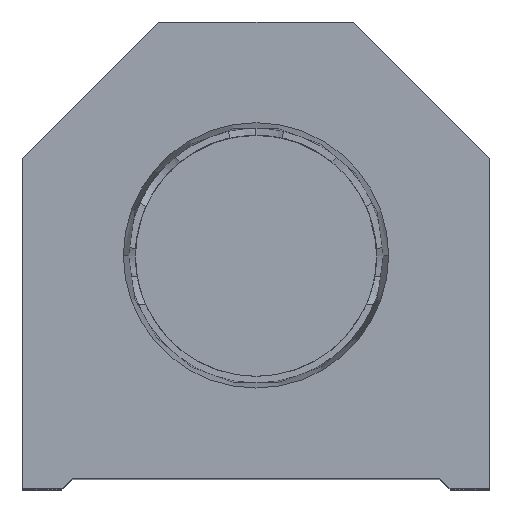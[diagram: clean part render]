
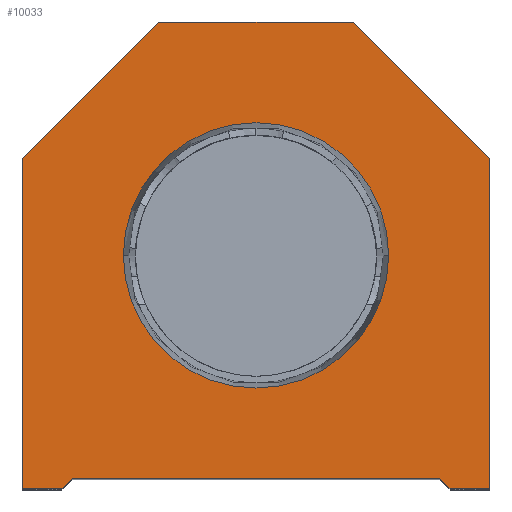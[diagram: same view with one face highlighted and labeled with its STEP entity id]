
A CAD part, top view. The second image highlights one B-rep face of the part: STEP entity #10033.
In plain terms, the highlighted planar face has unit normal (0, 0, 1).
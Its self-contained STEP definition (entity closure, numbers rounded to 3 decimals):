
#531 = CIRCLE ( 'NONE', #18785, 12.647 ) ;
#534 = VERTEX_POINT ( 'NONE', #5834 ) ;
#725 = ORIENTED_EDGE ( 'NONE', *, *, #7011, .T. ) ;
#784 = VERTEX_POINT ( 'NONE', #17681 ) ;
#794 = LINE ( 'NONE', #7763, #10068 ) ;
#921 = EDGE_CURVE ( 'NONE', #784, #14895, #20550, .T. ) ;
#1245 = EDGE_CURVE ( 'NONE', #2391, #534, #6723, .T. ) ;
#1561 = LINE ( 'NONE', #17331, #5244 ) ;
#1649 = VECTOR ( 'NONE', #4594, 1000. ) ;
#2178 = ORIENTED_EDGE ( 'NONE', *, *, #5368, .T. ) ;
#2391 = VERTEX_POINT ( 'NONE', #8529 ) ;
#2733 = ORIENTED_EDGE ( 'NONE', *, *, #15463, .T. ) ;
#3262 = DIRECTION ( 'NONE',  ( 1., 0., 0. ) ) ;
#3576 = CARTESIAN_POINT ( 'NONE',  ( 22.25, 31.5, 0. ) ) ;
#3578 = ORIENTED_EDGE ( 'NONE', *, *, #4099, .F. ) ;
#3602 = VERTEX_POINT ( 'NONE', #8545 ) ;
#3784 = FACE_BOUND ( 'NONE', #4726, .T. ) ;
#3879 = DIRECTION ( 'NONE',  ( 1., 0., 0. ) ) ;
#3960 = ORIENTED_EDGE ( 'NONE', *, *, #17997, .T. ) ;
#4099 = EDGE_CURVE ( 'NONE', #17177, #8280, #531, .T. ) ;
#4169 = VERTEX_POINT ( 'NONE', #3576 ) ;
#4216 = CARTESIAN_POINT ( 'NONE',  ( 12.647, 22.25, 0. ) ) ;
#4276 = VECTOR ( 'NONE', #13326, 1000. ) ;
#4314 = CARTESIAN_POINT ( 'NONE',  ( 18.5, 0., 0. ) ) ;
#4553 = DIRECTION ( 'NONE',  ( 1., 0., 0. ) ) ;
#4594 = DIRECTION ( 'NONE',  ( 0.707, 0.707, 0. ) ) ;
#4726 = EDGE_LOOP ( 'NONE', ( #12673, #3578 ) ) ;
#5095 = VERTEX_POINT ( 'NONE', #16109 ) ;
#5244 = VECTOR ( 'NONE', #21026, 1000. ) ;
#5368 = EDGE_CURVE ( 'NONE', #5095, #784, #8778, .T. ) ;
#5465 = VECTOR ( 'NONE', #21376, 1000. ) ;
#5693 = CARTESIAN_POINT ( 'NONE',  ( 22.25, 31.5, 0. ) ) ;
#5729 = VECTOR ( 'NONE', #21569, 1000. ) ;
#5834 = CARTESIAN_POINT ( 'NONE',  ( 17.5, 1., 0. ) ) ;
#6672 = EDGE_CURVE ( 'NONE', #14895, #2391, #10129, .T. ) ;
#6723 = LINE ( 'NONE', #15033, #4276 ) ;
#6876 = AXIS2_PLACEMENT_3D ( 'NONE', #19420, #10886, #3879 ) ;
#7011 = EDGE_CURVE ( 'NONE', #9888, #5095, #11110, .T. ) ;
#7173 = FACE_OUTER_BOUND ( 'NONE', #8279, .T. ) ;
#7180 = CARTESIAN_POINT ( 'NONE',  ( -22.25, 0., 0. ) ) ;
#7209 = DIRECTION ( 'NONE',  ( 0., 0., 1. ) ) ;
#7351 = CARTESIAN_POINT ( 'NONE',  ( 22.25, 0., 0. ) ) ;
#7763 = CARTESIAN_POINT ( 'NONE',  ( 9.25, 44.5, 0. ) ) ;
#8039 = ORIENTED_EDGE ( 'NONE', *, *, #22582, .T. ) ;
#8063 = LINE ( 'NONE', #16963, #19838 ) ;
#8279 = EDGE_LOOP ( 'NONE', ( #10389, #16745, #10844, #3960, #2733, #17811, #8039, #21887, #725, #2178 ) ) ;
#8280 = VERTEX_POINT ( 'NONE', #4216 ) ;
#8384 = CARTESIAN_POINT ( 'NONE',  ( -17.5, 0., 0. ) ) ;
#8529 = CARTESIAN_POINT ( 'NONE',  ( -17.5, 1., 0. ) ) ;
#8545 = CARTESIAN_POINT ( 'NONE',  ( 9.25, 44.5, 0. ) ) ;
#8778 = LINE ( 'NONE', #7180, #9214 ) ;
#8799 = DIRECTION ( 'NONE',  ( 1., 0., 0. ) ) ;
#8877 = VERTEX_POINT ( 'NONE', #22181 ) ;
#9083 = CARTESIAN_POINT ( 'NONE',  ( -22.25, 31.5, 0. ) ) ;
#9214 = VECTOR ( 'NONE', #10681, 1000. ) ;
#9888 = VERTEX_POINT ( 'NONE', #10317 ) ;
#10033 = ADVANCED_FACE ( 'NONE', ( #3784, #7173 ), #17343, .T. ) ;
#10068 = VECTOR ( 'NONE', #14699, 1000. ) ;
#10129 = LINE ( 'NONE', #15385, #1649 ) ;
#10288 = VERTEX_POINT ( 'NONE', #4314 ) ;
#10317 = CARTESIAN_POINT ( 'NONE',  ( -9.25, 44.5, 0. ) ) ;
#10389 = ORIENTED_EDGE ( 'NONE', *, *, #921, .T. ) ;
#10681 = DIRECTION ( 'NONE',  ( 0., -1., 0. ) ) ;
#10844 = ORIENTED_EDGE ( 'NONE', *, *, #1245, .T. ) ;
#10886 = DIRECTION ( 'NONE',  ( 0., 0., 1. ) ) ;
#11110 = LINE ( 'NONE', #9083, #5729 ) ;
#11350 = CARTESIAN_POINT ( 'NONE',  ( -18.5, 0., 0. ) ) ;
#11443 = EDGE_CURVE ( 'NONE', #8877, #4169, #21230, .T. ) ;
#12451 = CARTESIAN_POINT ( 'NONE',  ( 0., 22.25, 0. ) ) ;
#12480 = DIRECTION ( 'NONE',  ( 0., 1., 0. ) ) ;
#12528 = EDGE_CURVE ( 'NONE', #8280, #17177, #17469, .T. ) ;
#12673 = ORIENTED_EDGE ( 'NONE', *, *, #12528, .F. ) ;
#13009 = VECTOR ( 'NONE', #3262, 1000. ) ;
#13326 = DIRECTION ( 'NONE',  ( 1., 0., 0. ) ) ;
#13664 = EDGE_CURVE ( 'NONE', #3602, #9888, #794, .T. ) ;
#14344 = LINE ( 'NONE', #5693, #5465 ) ;
#14348 = DIRECTION ( 'NONE',  ( 0., 0., 1. ) ) ;
#14480 = CARTESIAN_POINT ( 'NONE',  ( -12.647, 22.25, 0. ) ) ;
#14699 = DIRECTION ( 'NONE',  ( -1., 0., 0. ) ) ;
#14895 = VERTEX_POINT ( 'NONE', #11350 ) ;
#15033 = CARTESIAN_POINT ( 'NONE',  ( -17.5, 1., 0. ) ) ;
#15330 = AXIS2_PLACEMENT_3D ( 'NONE', #15847, #14348, #21383 ) ;
#15385 = CARTESIAN_POINT ( 'NONE',  ( -9.25, 9.25, 0. ) ) ;
#15463 = EDGE_CURVE ( 'NONE', #10288, #8877, #8063, .T. ) ;
#15847 = CARTESIAN_POINT ( 'NONE',  ( 0., 0., 0. ) ) ;
#16109 = CARTESIAN_POINT ( 'NONE',  ( -22.25, 31.5, 0. ) ) ;
#16745 = ORIENTED_EDGE ( 'NONE', *, *, #6672, .T. ) ;
#16963 = CARTESIAN_POINT ( 'NONE',  ( 17.5, 0., 0. ) ) ;
#17177 = VERTEX_POINT ( 'NONE', #14480 ) ;
#17331 = CARTESIAN_POINT ( 'NONE',  ( 9.25, 9.25, 0. ) ) ;
#17343 = PLANE ( 'NONE',  #15330 ) ;
#17469 = CIRCLE ( 'NONE', #6876, 12.647 ) ;
#17681 = CARTESIAN_POINT ( 'NONE',  ( -22.25, 0., 0. ) ) ;
#17811 = ORIENTED_EDGE ( 'NONE', *, *, #11443, .T. ) ;
#17997 = EDGE_CURVE ( 'NONE', #534, #10288, #1561, .T. ) ;
#18785 = AXIS2_PLACEMENT_3D ( 'NONE', #12451, #7209, #8799 ) ;
#19420 = CARTESIAN_POINT ( 'NONE',  ( 0., 22.25, 0. ) ) ;
#19838 = VECTOR ( 'NONE', #4553, 1000. ) ;
#20550 = LINE ( 'NONE', #8384, #13009 ) ;
#21026 = DIRECTION ( 'NONE',  ( 0.707, -0.707, 0. ) ) ;
#21230 = LINE ( 'NONE', #7351, #22169 ) ;
#21376 = DIRECTION ( 'NONE',  ( -0.707, 0.707, 0. ) ) ;
#21383 = DIRECTION ( 'NONE',  ( 1., 0., 0. ) ) ;
#21569 = DIRECTION ( 'NONE',  ( -0.707, -0.707, 0. ) ) ;
#21887 = ORIENTED_EDGE ( 'NONE', *, *, #13664, .T. ) ;
#22169 = VECTOR ( 'NONE', #12480, 1000. ) ;
#22181 = CARTESIAN_POINT ( 'NONE',  ( 22.25, 0., 0. ) ) ;
#22582 = EDGE_CURVE ( 'NONE', #4169, #3602, #14344, .T. ) ;
